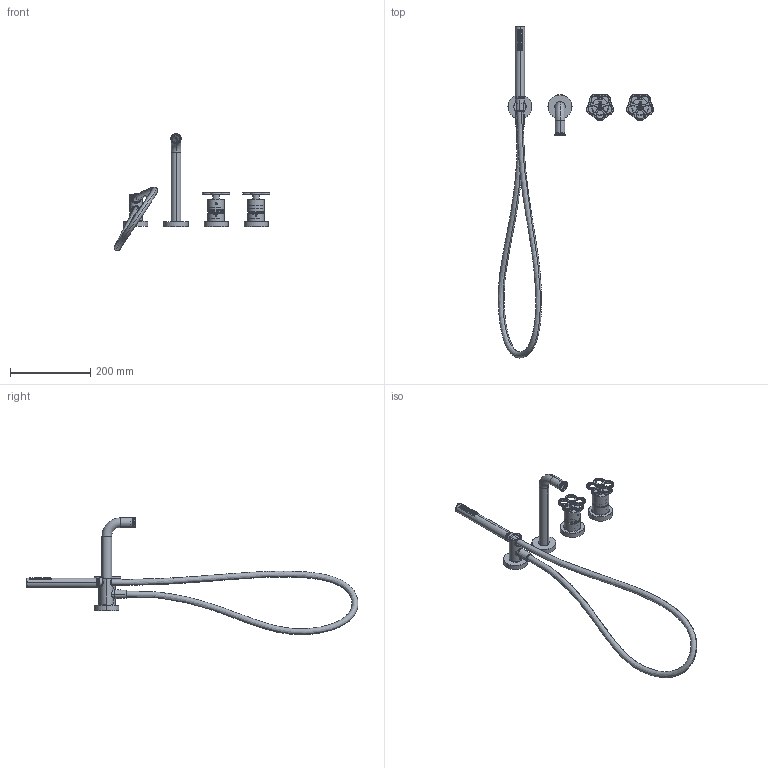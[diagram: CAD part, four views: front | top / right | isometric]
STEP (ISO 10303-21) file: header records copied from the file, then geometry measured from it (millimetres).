
FILE_DESCRIPTION((''),'2;1');
FILE_NAME('20930T521B000000_SW0003','2023-01-31T18:19:23',('matteo.follador'),(''),'CREO PARAMETRIC BY PTC INC, 2020281','CREO PARAMETRIC BY PTC INC, 2020281','');
FILE_SCHEMA(('AUTOMOTIVE_DESIGN { 1 0 10303 214 1 1 1 1 }'));
Length unit declared in the file: millimetre
Products named in the file (1): 20930T521B000000_SW0003
Bounding box: 388.19 x 828.21 x 292.68 mm (x, y, z)
Volume: 542890.8 mm3; surface area: 236377.8 mm2
Topology: 8 solids, 8 shells, 1795 faces, 4591 edges, 2901 vertices
Faces by surface type: plane 803, cylinder 379, cone 257, torus 223, bspline 129, extrusion 3, sphere 1
Entity records: 112414 total; most frequent: CARTESIAN_POINT 56881, ORIENTED_EDGE 9166, DIRECTION 8239, EDGE_CURVE 4583, VERTEX_POINT 2901, AXIS2_PLACEMENT_3D 2884, VECTOR 2468, LINE 2465
